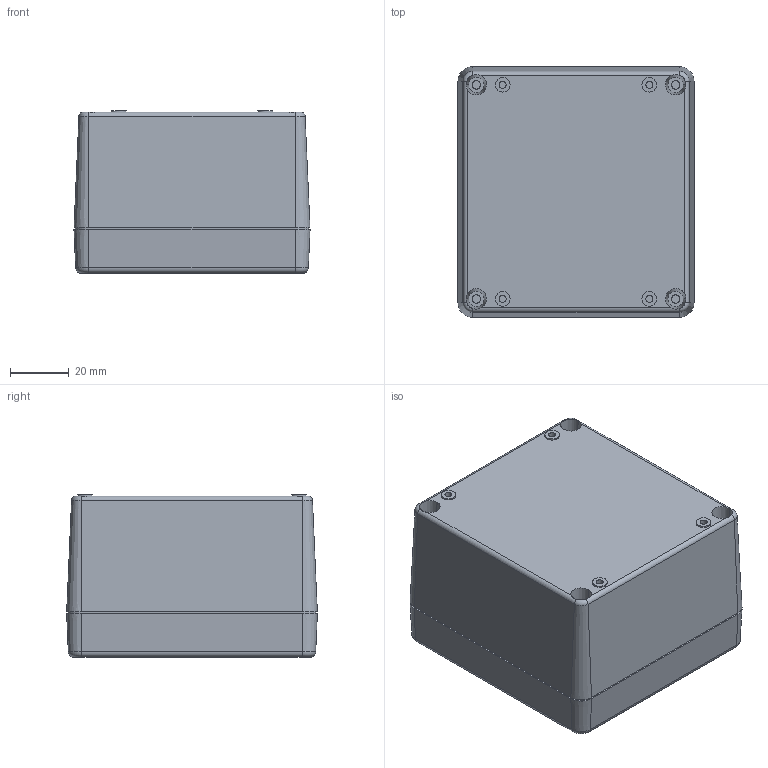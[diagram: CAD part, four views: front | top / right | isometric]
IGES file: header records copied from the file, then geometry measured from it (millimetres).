
Global section: file name: No Iges File Name specified; native system: Autodesk Inventor 2010; preprocessor: AutoDesk Inventor Iges Exporter R2010; author: tcook; date: 20090729.133328; units: inch
Bounding box: 80.5 x 85.5 x 55.5 mm (x, y, z)
Volume: 90883.7 mm3; surface area: 76512.1 mm2
Topology: 7 solids, 7 shells, 831 faces, 2080 edges, 1312 vertices
Faces by surface type: plane 255, revolution 204, cone 192, cylinder 144, torus 20, sphere 8, bspline 8
